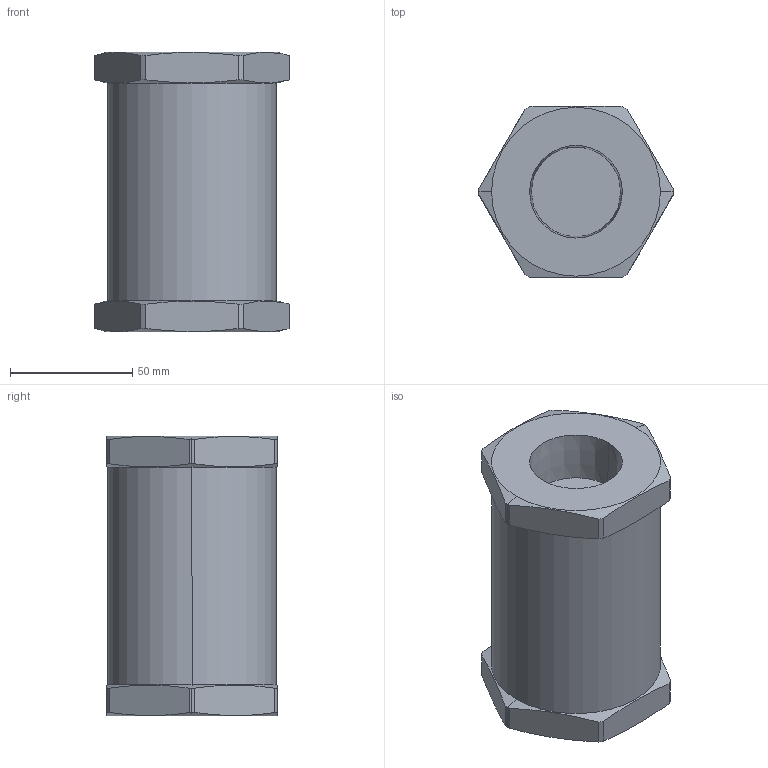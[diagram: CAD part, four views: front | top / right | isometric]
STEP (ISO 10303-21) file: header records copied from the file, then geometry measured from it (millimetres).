
FILE_DESCRIPTION (( 'STEP AP203' ), '1' );
FILE_NAME ('CV-1250B-__-__.STEP', '2011-11-04T21:10:49', ( 'Tim' ), ( 'Microsoft' ), 'SwSTEP 2.0', 'SolidWorks 2011', '' );
FILE_SCHEMA (( 'CONFIG_CONTROL_DESIGN' ));
Length unit declared in the file: inch
Products named in the file (1): CV-1250B-__-__
Bounding box: 79.34 x 69.85 x 114.3 mm (x, y, z)
Volume: 392882.3 mm3; surface area: 38999.2 mm2
Topology: 1 solids, 1 shells, 44 faces, 112 edges, 72 vertices
Faces by surface type: cylinder 16, plane 16, cone 12
Entity records: 1571 total; most frequent: CARTESIAN_POINT 429, DIRECTION 226, ORIENTED_EDGE 224, EDGE_CURVE 112, AXIS2_PLACEMENT_3D 93, VERTEX_POINT 72, CIRCLE 48, EDGE_LOOP 46
